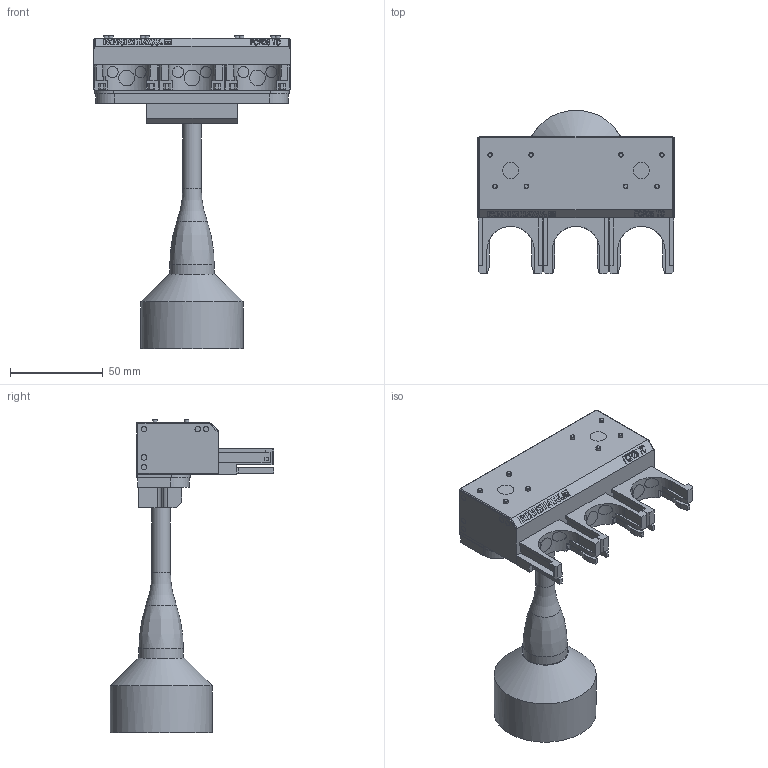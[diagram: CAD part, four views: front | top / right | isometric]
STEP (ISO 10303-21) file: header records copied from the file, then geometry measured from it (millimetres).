
FILE_DESCRIPTION(/* description */ (''),/* implementation_level */ '2;1');
FILE_NAME(/* name */ 'LA-2237-1417#-A.stp',/* time_stamp */ '2012-09-04T14:43:44+01:00',/* author */ (''),/* organization */ (''),/* preprocessor_version */ 'ST-DEVELOPER v11',/* originating_system */ 'SIEMENS PLM Software NX 7.5',/* authorisation */ '');
FILE_SCHEMA (('AUTOMOTIVE_DESIGN { 1 0 10303 214 1 1 1 1 }'));
Length unit declared in the file: millimetre
Products named in the file (1): rt133622tjrn
Bounding box: 105.75 x 88.25 x 168.89 mm (x, y, z)
Volume: 270018.4 mm3; surface area: 41861.2 mm2
Topology: 1 solids, 1 shells, 323 faces, 948 edges, 704 vertices
Faces by surface type: plane 248, cylinder 60, cone 9, bspline 5, torus 1
Full cylindrical faces by diameter (mm): 2.5 x8, 6.1 x1, 10 x1, 23.95 x1, 55 x1
Entity records: 13938 total; most frequent: CARTESIAN_POINT 2950, ORIENTED_EDGE 1842, DIRECTION 1653, EDGE_CURVE 921, VERTEX_POINT 701, LINE 677, VECTOR 677, AXIS2_PLACEMENT_3D 488
